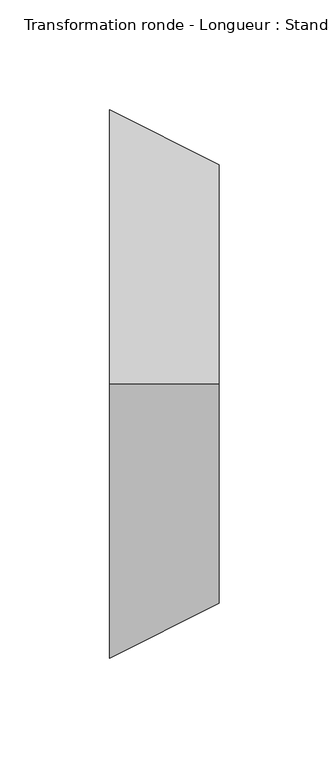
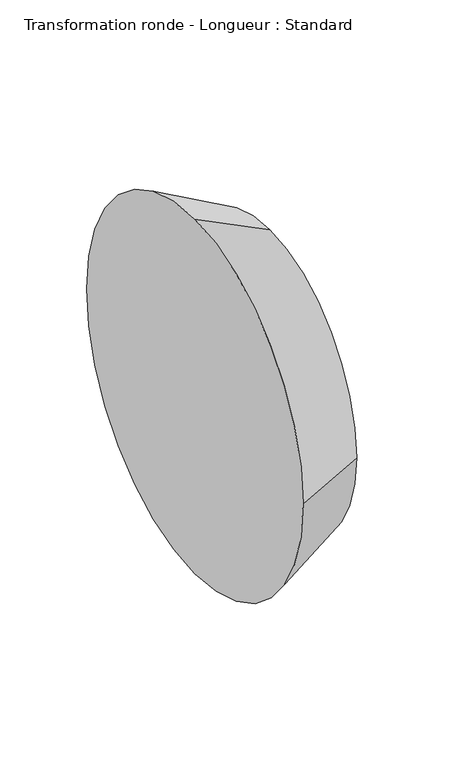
"""IFC4 building model written with IfcOpenShell, lengths in millimetres: duct fitting geometry, Transformation ronde - Longueur : Standard."""

import ifcopenshell
import ifcopenshell.guid

model = None  # the IFC model being written
_history = None  # IfcOwnerHistory: only IFC2X3 demands one
_inside = {}  # id of a spatial element -> (the spatial element, [elements in it])
_under = {}  # id of a project, library or spatial element -> (it, [spatial elements below it])
_declared = {}  # id of a project -> (the project, [libraries it declares])
_typed = {}  # id of a type object -> (the type object, [elements of that type])
_made_of = {}  # id of a material, layer set ... -> (it, [elements and type objects made of it])


def new_model(schema):
    """Start an empty IFC model of exactly this schema.

    Asked for "IFC4X3", IfcOpenShell would pick the latest addendum, in which some entities
    have other attributes; the version numbers below select the first issue.
    IFC2X3 requires an IfcOwnerHistory on every rooted entity: one is made here for all.
    """
    global model, _history
    if schema == "IFC4X3":
        model = ifcopenshell.file(schema_version=(4, 3, 0, 0))
    else:
        model = ifcopenshell.file(schema=schema)
    _inside.clear()
    _under.clear()
    _declared.clear()
    _typed.clear()
    _made_of.clear()
    _history = None
    if model.schema == "IFC2X3":
        org = make("IfcOrganization", Name="unknown")
        user = make(
            "IfcPersonAndOrganization",
            ThePerson=make("IfcPerson", FamilyName="unknown"),
            TheOrganization=org,
        )
        app = make(
            "IfcApplication",
            ApplicationDeveloper=org,
            Version="unknown",
            ApplicationFullName="unknown",
            ApplicationIdentifier="unknown",
        )
        _history = make(
            "IfcOwnerHistory",
            OwningUser=user,
            OwningApplication=app,
            ChangeAction="ADDED",
            CreationDate=0,
        )
    return model


def make(cls, **values):
    """One entity of the class cls with the attributes given. An attribute that is None is left unset."""
    return model.create_entity(
        cls, **{name: value for name, value in values.items() if value is not None}
    )


def rooted(cls, **values):
    """An entity with a GlobalId (a new one), such as an element, a storey or a relation."""
    return make(cls, GlobalId=ifcopenshell.guid.new(), OwnerHistory=_history, **values)


def si_unit(unit_type, name, prefix=None):
    """IfcSIUnit, for example si_unit("LENGTHUNIT", "METRE", prefix="MILLI")."""
    return make("IfcSIUnit", UnitType=unit_type, Prefix=prefix, Name=name)


def assignment(units):
    """IfcUnitAssignment: the units of a project."""
    return None if units is None else make("IfcUnitAssignment", Units=units)


def point(xyz):
    """IfcCartesianPoint."""
    return None if xyz is None else make("IfcCartesianPoint", Coordinates=xyz)


def direction(xyz):
    """IfcDirection."""
    return None if xyz is None else make("IfcDirection", DirectionRatios=xyz)


def frame(location, z_axis=None, x_axis=None):
    """IfcAxis2Placement3D, a coordinate frame: its origin and axes. An axis left out is left unset."""
    return make(
        "IfcAxis2Placement3D",
        Location=point(location),
        Axis=direction(z_axis),
        RefDirection=direction(x_axis),
    )


def origin():
    """The frame at (0, 0, 0) with its axes left unset."""
    return frame((0.0, 0.0, 0.0))


def place(relative_to, where):
    """IfcLocalPlacement: puts the frame where relative to a parent placement (None: the world)."""
    return make(
        "IfcLocalPlacement", PlacementRelTo=relative_to, RelativePlacement=where
    )


def context(
    kind, dimensions, precision=None, world=None, true_north=None, identifier=None
):
    """IfcGeometricRepresentationContext, for example the 3D "Model" context."""
    return make(
        "IfcGeometricRepresentationContext",
        ContextIdentifier=identifier,
        ContextType=kind,
        CoordinateSpaceDimension=dimensions,
        Precision=precision,
        WorldCoordinateSystem=world,
        TrueNorth=true_north,
    )


def project(units=None, contexts=None):
    """IfcProject with its units and contexts."""
    return rooted(
        "IfcProject",
        Name="project",
        RepresentationContexts=contexts,
        UnitsInContext=assignment(units),
    )


def spatial(cls, under=None, at=None, **own):
    """A site, building, storey or space (cls), placed at a placement, below another one or the project."""
    s = rooted(cls, ObjectPlacement=at, **own)
    if under is not None:
        _under.setdefault(under.id(), (under, []))[1].append(s)
    return s


def polyline(points):
    """IfcPolyline through the points."""
    return make("IfcPolyline", Points=[point(p) for p in points])


def circle_curve(where, radius):
    """IfcCircle in the frame where."""
    return make("IfcCircle", Position=where, Radius=radius)


def shape(context_of_items, identifier, shape_type, items):
    """IfcShapeRepresentation: the items that make up one representation, for example the "Body"."""
    return make(
        "IfcShapeRepresentation",
        ContextOfItems=context_of_items,
        RepresentationIdentifier=identifier,
        RepresentationType=shape_type,
        Items=items,
    )


def source(mapping_origin, context_of_items, identifier, shape_type, items):
    """IfcRepresentationMap: a shape defined once, which mapped items show again and again."""
    return make(
        "IfcRepresentationMap",
        MappingOrigin=mapping_origin,
        MappedRepresentation=shape(context_of_items, identifier, shape_type, items),
    )


def transform(
    local_origin,
    x_axis=None,
    y_axis=None,
    z_axis=None,
    scale=None,
    scale2=None,
    scale3=None,
    uniform=True,
):
    """IfcCartesianTransformationOperator3D, or its non-uniform kind. x_axis, y_axis, z_axis: its Axis1, 2, 3."""
    if uniform:
        return make(
            "IfcCartesianTransformationOperator3D",
            Axis1=direction(x_axis),
            Axis2=direction(y_axis),
            LocalOrigin=point(local_origin),
            Scale=scale,
            Axis3=direction(z_axis),
        )
    return make(
        "IfcCartesianTransformationOperator3DnonUniform",
        Axis1=direction(x_axis),
        Axis2=direction(y_axis),
        LocalOrigin=point(local_origin),
        Scale=scale,
        Axis3=direction(z_axis),
        Scale2=scale2,
        Scale3=scale3,
    )


def mapped(mapping_source, mapping_target):
    """IfcMappedItem: shows the shape of a source again, moved by a transform."""
    return make(
        "IfcMappedItem", MappingSource=mapping_source, MappingTarget=mapping_target
    )


def made_of(thing, what):
    """Note that an element or type object is made of a material, layer set ...; save() writes the relation."""
    if what is not None:
        _made_of.setdefault(what.id(), (what, []))[1].append(thing)
    return thing


def element(
    cls,
    number,
    at=None,
    inside=None,
    cuts=None,
    type_object=None,
    material=None,
    context=None,
    identifier="Body",
    shape_type=None,
    held_by="IfcProductDefinitionShape",
    body=None,
    shapes=None,
    **own,
):
    """One element of the class cls, such as IfcWall. Its Tag is "e" and its number.

    at: its placement. inside: the storey or other place that contains it. cuts: it is an
    opening in that element (IfcRelVoidsElement). A single representation is given by context,
    identifier, shape_type and body (its items); several are given by shapes. held_by: the class
    of the entity that holds the representations. save() writes the other relations.
    """
    e = rooted(cls, Tag="e%d" % number, ObjectPlacement=at, **own)
    if body is not None:
        shapes = [shape(context, identifier, shape_type, body)]
    if shapes is not None:
        e.Representation = make(held_by, Representations=shapes)
    if inside is not None:
        _inside.setdefault(inside.id(), (inside, []))[1].append(e)
    if cuts is not None:
        rooted(
            "IfcRelVoidsElement", RelatingBuildingElement=cuts, RelatedOpeningElement=e
        )
    if type_object is not None:
        _typed.setdefault(type_object.id(), (type_object, []))[1].append(e)
    return made_of(e, material)


def aggregate(whole, parts):
    """IfcRelAggregates: a whole, such as a stair, and the parts it consists of."""
    return rooted("IfcRelAggregates", RelatingObject=whole, RelatedObjects=parts)


def save(model, path):
    """Write the relations noted so far, then the file.

    IfcRelAggregates (storeys below a building ...), IfcRelContainedInSpatialStructure (elements
    in a storey), IfcRelDefinesByType, IfcRelAssociatesMaterial and IfcRelDeclares: one each for
    every whole, place, type object, material and project.
    """
    for whole, parts in _under.values():
        aggregate(whole, parts)
    for where, things in _inside.values():
        rooted(
            "IfcRelContainedInSpatialStructure",
            RelatedElements=things,
            RelatingStructure=where,
        )
    for kind, things in _typed.values():
        rooted("IfcRelDefinesByType", RelatedObjects=things, RelatingType=kind)
    for what, things in _made_of.values():
        rooted("IfcRelAssociatesMaterial", RelatedObjects=things, RelatingMaterial=what)
    for by, libraries in _declared.values():
        rooted("IfcRelDeclares", RelatingContext=by, RelatedDefinitions=libraries)
    model.write(path)


def plane_surface(at):
    """IfcPlane: the flat surface through the origin of the frame at, square to its z axis."""
    return make("IfcPlane", Position=at)


def revolved_surface(curve, axis_point, axis_direction):
    """IfcSurfaceOfRevolution: the curve turned about the line through axis_point along axis_direction."""
    return make(
        "IfcSurfaceOfRevolution",
        SweptCurve=make("IfcArbitraryOpenProfileDef", ProfileType="CURVE", Curve=curve),
        AxisPosition=make("IfcAxis1Placement", Location=point(axis_point), Axis=direction(axis_direction)),
    )


def advanced_brep(points, edges, surfaces, faces):
    """IfcAdvancedBrep: a solid bounded by faces that lie on surfaces and meet in shared edges.

    An edge is (start, end): straight between two places in points (the first is 0);
    or (start, end, curve); or (start, end, curve, False) where it runs against its curve.
    A face is (place in surfaces, loops), or (place, loops, False) where it looks against
    its surface's normal. A loop lists edges by number (the first is 1), with a minus sign
    where the edge is run from its end to its start. The first loop is the outer one.
    """
    corners = [point(p) for p in points]
    vertices = [make("IfcVertexPoint", VertexGeometry=c) for c in corners]
    made = []
    for start, end, *more in edges:
        made.append(
            make(
                "IfcEdgeCurve",
                EdgeStart=vertices[start],
                EdgeEnd=vertices[end],
                EdgeGeometry=more[0] if more else make("IfcPolyline", Points=[corners[start], corners[end]]),
                SameSense=more[1] if len(more) > 1 else True,
            )
        )
    hull = []
    for where, loops, *sense in faces:
        bounds = []
        for j, loop in enumerate(loops):
            ring = [make("IfcOrientedEdge", EdgeElement=made[abs(k) - 1], Orientation=k > 0) for k in loop]
            bounds.append(
                make(
                    "IfcFaceOuterBound" if j == 0 else "IfcFaceBound",
                    Bound=make("IfcEdgeLoop", EdgeList=ring),
                    Orientation=True,
                )
            )
        hull.append(make("IfcAdvancedFace", Bounds=bounds, FaceSurface=surfaces[where], SameSense=sense[0] if sense else True))
    return make("IfcAdvancedBrep", Outer=make("IfcClosedShell", CfsFaces=hull))


def transformation_ronde_longueur_standard_fb525273(model_context):
    return source(origin(), model_context, "Body", "AdvancedBrep", [
        advanced_brep(
        [(50.0, 100.0, 0.0), (50.0, 0.0, 100.0), (50.0, -100.0, 0.0), (50.0, 0.0, -100.0), (0.0, 125.0, 0.0), (0.0, 0.0, -125.0), (0.0, -125.0, 0.0), (0.0, 0.0, 125.0)],
        [
            (0, 1, circle_curve(frame((50.0, 0.0, 0.0), z_axis=(1.0, 0.0, 0.0), x_axis=(0.0, 1.0, 0.0)), 100.0)),
            (1, 2, circle_curve(frame((50.0, 0.0, 0.0), z_axis=(1.0, 0.0, 0.0), x_axis=(0.0, 0.0, 1.0)), 100.0)),
            (2, 3, circle_curve(frame((50.0, 0.0, 0.0), z_axis=(1.0, 0.0, 0.0), x_axis=(0.0, -1.0, 0.0)), 100.0)),
            (3, 0, circle_curve(frame((50.0, 0.0, 0.0), z_axis=(1.0, 0.0, 0.0), x_axis=(0.0, 0.0, -1.0)), 100.0)),
            (4, 5, circle_curve(frame((0.0, 0.0, 0.0), z_axis=(-1.0, 0.0, 0.0), x_axis=(0.0, 0.0, -1.0)), 125.0)),
            (5, 6, circle_curve(frame((0.0, 0.0, 0.0), z_axis=(-1.0, 0.0, 0.0), x_axis=(0.0, -1.0, 0.0)), 125.0)),
            (6, 7, circle_curve(frame((0.0, 0.0, 0.0), z_axis=(-1.0, 0.0, 0.0), x_axis=(0.0, 0.0, 1.0)), 125.0)),
            (7, 4, circle_curve(frame((0.0, 0.0, 0.0), z_axis=(-1.0, 0.0, 0.0), x_axis=(0.0, 1.0, 0.0)), 125.0)),
            (0, 4),
            (7, 1),
            (6, 2),
            (5, 3),
        ],
        [
            plane_surface(frame((50.0, 0.0, 0.0), z_axis=(1.0, 0.0, 0.0), x_axis=(0.0, 0.0, 1.0))),
            plane_surface(frame((0.0, 0.0, 0.0), z_axis=(-1.0, 0.0, 0.0), x_axis=(0.0, 0.0, 1.0))),
            revolved_surface(polyline([(50.0, 100.0, 0.0), (0.0, 125.0, 0.0)]), (250.0, 0.0, 0.0), (-1.0, 0.0, 0.0)),
            revolved_surface(polyline([(50.0, 0.0, 100.0), (0.0, 0.0, 125.0)]), (250.0, 0.0, 0.0), (-1.0, 0.0, 0.0)),
            revolved_surface(polyline([(50.0, -100.0, 0.0), (0.0, -125.0, 0.0)]), (250.0, 0.0, 0.0), (-1.0, 0.0, 0.0)),
            revolved_surface(polyline([(50.0, 0.0, -100.0), (0.0, 0.0, -125.0)]), (250.0, 0.0, 0.0), (-1.0, 0.0, 0.0)),
        ],
        [
            (0, [[1, 2, 3, 4]]),
            (1, [[5, 6, 7, 8]]),
            (2, [[-1, 9, -8, 10]]),
            (3, [[-2, -10, -7, 11]]),
            (4, [[-3, -11, -6, 12]]),
            (5, [[-4, -12, -5, -9]]),
        ],
    ),
    ])


if __name__ == "__main__":
    model = new_model("IFC4")
    model_context = context("Model", 3, world=origin())
    ifc_project = project(units=[si_unit("LENGTHUNIT", "METRE", prefix="MILLI")], contexts=[model_context])
    site = spatial("IfcSite", under=ifc_project)
    building = spatial("IfcBuilding", under=site)
    placement = place(None, origin())
    transformation_ronde_longueur_standard_shape = transformation_ronde_longueur_standard_fb525273(model_context)
    element("IfcDuctFitting", 1, ObjectType="Transformation ronde - Longueur : Standard", at=placement, inside=building, context=model_context, shape_type="MappedRepresentation", body=[
        mapped(transformation_ronde_longueur_standard_shape, transform((0.0, 0.0, 0.0), x_axis=(1.0, 0.0, 0.0), y_axis=(0.0, 1.0, 0.0), z_axis=(0.0, 0.0, 1.0))),
    ])
    save(model, "model.ifc")
